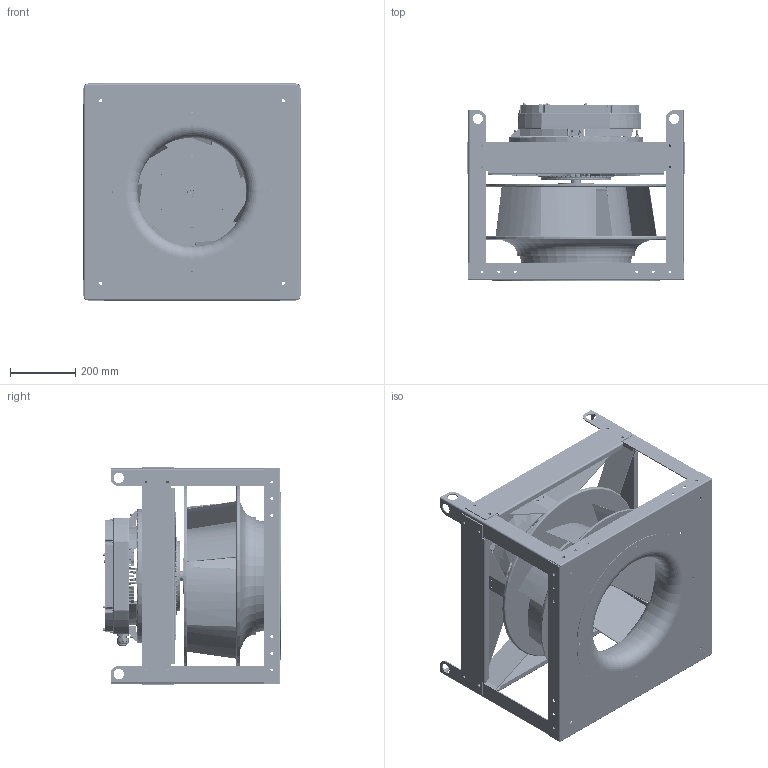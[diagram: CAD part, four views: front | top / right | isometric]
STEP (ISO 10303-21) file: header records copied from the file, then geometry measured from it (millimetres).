
FILE_DESCRIPTION (( 'STEP AP214' ), '1' );
FILE_NAME ('655782.STEP', '2026-04-07T20:39:44', ( '' ), ( '' ), 'SwSTEP 2.0', 'SolidWorks 2023', '' );
FILE_SCHEMA (( 'AUTOMOTIVE_DESIGN' ));
Length unit declared in the file: inch
Products named in the file (8): 768037CS_768037CS; 768049CS_768049CS; 655782; 651606_651606; 925517CS_925517CS; 651593_651593; 651547_651547; SXPI STRAP_651579
Assembly tree (16 placements, depth 2):
  655782
    651547_651547
    651606_651606  x4
    651593_651593  x4
    SXPI STRAP_651579  x4
    925517CS_925517CS
    768037CS_768037CS
    768049CS_768049CS
Bounding box: 663.7 x 542.63 x 663.7 mm (x, y, z)
Volume: 6606848.3 mm3; surface area: 5782837.5 mm2
Topology: 26 solids, 248 shells, 4378 faces, 14017 edges, 9587 vertices
Faces by surface type: cylinder 1281, plane 1169, bspline 1126, torus 402, cone 395, sphere 5
Full cylindrical faces by diameter (mm): 2.9 x2, 3.962 x4, 5.105 x16, 6 x144, 7 x5, 7.137 x16, 7.544 x1, 7.937 x3, 7.938 x1, 8.5 x1, 8.738 x87, 9 x5, 9.73 x8, 10.1 x1, 10.2 x1, 11.8 x7, 12.5 x1, 12.6 x1, 13 x7, 14 x1, 17.462 x4, 23.5 x1, 25.4 x1, 25.5 x2, 26.2 x1, 26.35 x1, 26.416 x2, 26.5 x1, 28.575 x1, 29.75 x1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
Entity records: 309321 total; most frequent: CARTESIAN_POINT 211073, ORIENTED_EDGE 20253, DIRECTION 17373, EDGE_CURVE 12540, VERTEX_POINT 8797, AXIS2_PLACEMENT_3D 6878, EDGE_LOOP 4744, B_SPLINE_CURVE_WITH_KNOTS 4148
